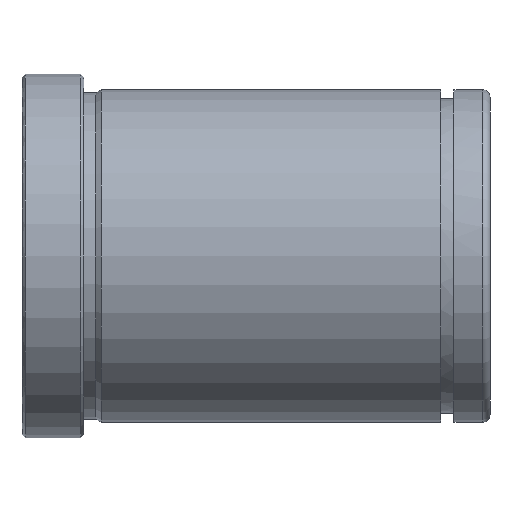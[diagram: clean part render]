
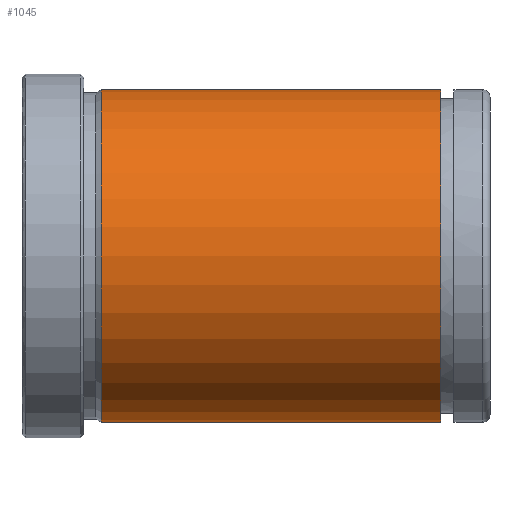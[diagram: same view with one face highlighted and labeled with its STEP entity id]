
A CAD part, front view. The second image highlights one B-rep face of the part: STEP entity #1045.
In plain terms, the highlighted cylindrical face has radius 27 mm (diameter 54 mm), a partial arc.
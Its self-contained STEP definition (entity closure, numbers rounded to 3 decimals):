
#851=CARTESIAN_POINT('Vertex',(12.866,0.,-27.)) ;
#858=CARTESIAN_POINT('Vertex',(12.866,0.,27.)) ;
#887=CARTESIAN_POINT('Axis2P3D Location',(12.866,0.,0.)) ;
#891=CARTESIAN_POINT('Vertex',(12.866,-27.,0.)) ;
#894=CARTESIAN_POINT('Axis2P3D Location',(12.866,0.,0.)) ;
#985=CARTESIAN_POINT('Line Origine',(152.,0.,27.)) ;
#989=CARTESIAN_POINT('Vertex',(68.,0.,27.)) ;
#1003=CARTESIAN_POINT('Vertex',(68.,0.,-27.)) ;
#1006=CARTESIAN_POINT('Line Origine',(152.,0.,-27.)) ;
#1020=CARTESIAN_POINT('Axis2P3D Location',(152.,0.,0.)) ;
#1025=CARTESIAN_POINT('Axis2P3D Location',(68.,0.,0.)) ;
#1029=CARTESIAN_POINT('Vertex',(68.,-27.,0.)) ;
#1032=CARTESIAN_POINT('Axis2P3D Location',(68.,0.,0.)) ;
#888=DIRECTION('Axis2P3D Direction',(1.,0.,-0.)) ;
#895=DIRECTION('Axis2P3D Direction',(1.,0.,-0.)) ;
#986=DIRECTION('Vector Direction',(-1.,0.,0.)) ;
#1007=DIRECTION('Vector Direction',(-1.,0.,0.)) ;
#1021=DIRECTION('Axis2P3D Direction',(-1.,-0.,-0.)) ;
#1022=DIRECTION('Axis2P3D XDirection',(0.,0.,-1.)) ;
#1026=DIRECTION('Axis2P3D Direction',(-1.,-0.,-0.)) ;
#1033=DIRECTION('Axis2P3D Direction',(-1.,-0.,-0.)) ;
#889=AXIS2_PLACEMENT_3D('Circle Axis2P3D',#887,#888,$) ;
#896=AXIS2_PLACEMENT_3D('Circle Axis2P3D',#894,#895,$) ;
#1023=AXIS2_PLACEMENT_3D('Cylinder Axis2P3D',#1020,#1021,#1022) ;
#1027=AXIS2_PLACEMENT_3D('Circle Axis2P3D',#1025,#1026,$) ;
#1034=AXIS2_PLACEMENT_3D('Circle Axis2P3D',#1032,#1033,$) ;
#1038=ORIENTED_EDGE('',*,*,#1010,.T.) ;
#1039=ORIENTED_EDGE('',*,*,#1031,.F.) ;
#1040=ORIENTED_EDGE('',*,*,#1036,.F.) ;
#1041=ORIENTED_EDGE('',*,*,#991,.T.) ;
#1042=ORIENTED_EDGE('',*,*,#898,.T.) ;
#1043=ORIENTED_EDGE('',*,*,#893,.T.) ;
#987=VECTOR('Line Direction',#986,1.) ;
#1008=VECTOR('Line Direction',#1007,1.) ;
#1045=ADVANCED_FACE('553-40X76',(#1044),#1024,.T.) ;
#890=CIRCLE('generated circle',#889,27.) ;
#897=CIRCLE('generated circle',#896,27.) ;
#1028=CIRCLE('generated circle',#1027,27.) ;
#1035=CIRCLE('generated circle',#1034,27.) ;
#1024=CYLINDRICAL_SURFACE('generated cylinder',#1023,27.) ;
#893=EDGE_CURVE('',#892,#852,#890,.T.) ;
#898=EDGE_CURVE('',#859,#892,#897,.T.) ;
#991=EDGE_CURVE('',#990,#859,#988,.T.) ;
#1010=EDGE_CURVE('',#852,#1004,#1009,.F.) ;
#1031=EDGE_CURVE('',#1030,#1004,#1028,.F.) ;
#1036=EDGE_CURVE('',#990,#1030,#1035,.F.) ;
#1037=EDGE_LOOP('',(#1038,#1039,#1040,#1041,#1042,#1043)) ;
#1044=FACE_OUTER_BOUND('',#1037,.T.) ;
#988=LINE('Line',#985,#987) ;
#1009=LINE('Line',#1006,#1008) ;
#852=VERTEX_POINT('',#851) ;
#859=VERTEX_POINT('',#858) ;
#892=VERTEX_POINT('',#891) ;
#990=VERTEX_POINT('',#989) ;
#1004=VERTEX_POINT('',#1003) ;
#1030=VERTEX_POINT('',#1029) ;
